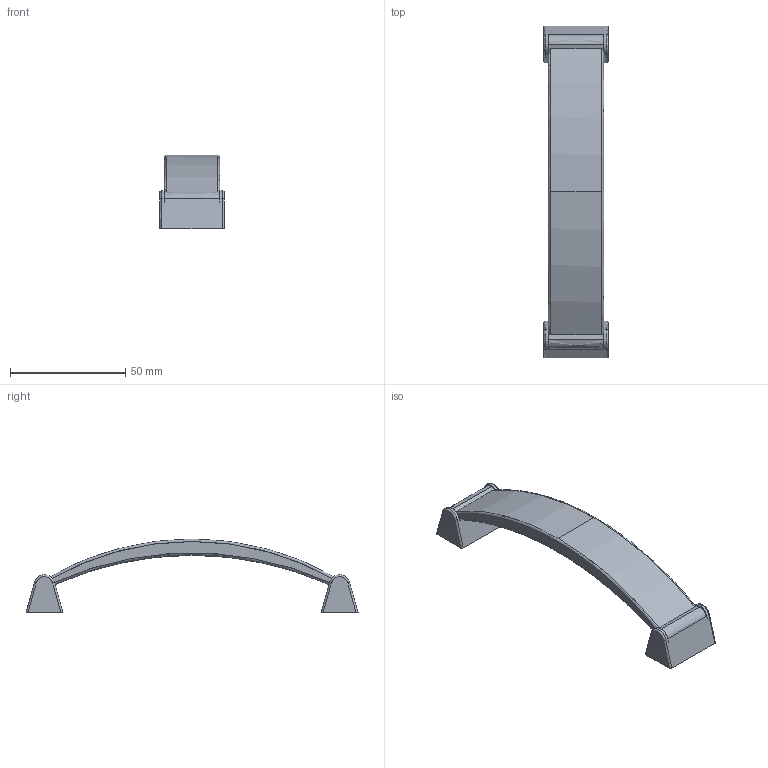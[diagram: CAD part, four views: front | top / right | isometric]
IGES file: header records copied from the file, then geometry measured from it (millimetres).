
Start section: C
Global section: file name: 0089.igs; native system: By Siemens PLM Incorporated; preprocessor: XPlus GENERIC/IGES 16.0.42; author: Author; organization: Title; date: 20260104.152825; units: millimetre
Bounding box: 28 x 144 x 32 mm (x, y, z)
Surface area: 14658.9 mm2 (no closed solid volume)
Topology: 0 solids, 0 shells, 72 faces, 356 edges, 356 vertices
Faces by surface type: bspline 72
